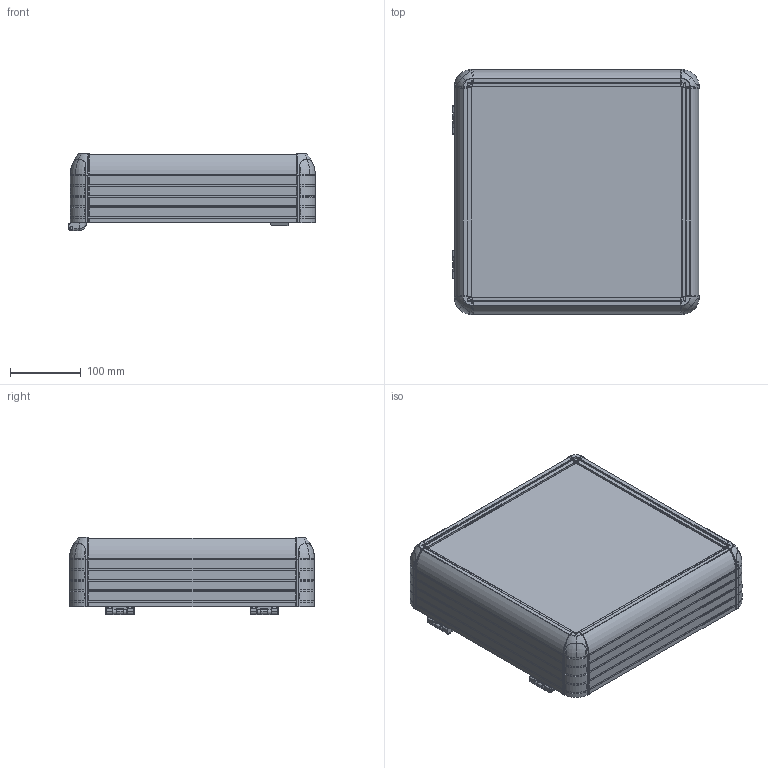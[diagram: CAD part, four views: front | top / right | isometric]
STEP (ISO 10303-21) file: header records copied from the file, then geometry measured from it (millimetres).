
FILE_DESCRIPTION (( 'STEP AP214' ), '1' );
FILE_NAME ('9000-0004.STEP', '2022-08-31T14:22:33', ( '' ), ( '' ), 'SwSTEP 2.0', 'SolidWorks 2022', '' );
FILE_SCHEMA (( 'AUTOMOTIVE_DESIGN' ));
Length unit declared in the file: millimetre
Products named in the file (5): ECO9000-0000; HPECO-090-001-295_295; 300X300; ARKA_KAPAK_300X300; 9000-0004
Assembly tree (10 placements, depth 2):
  9000-0004
    300X300
    ARKA_KAPAK_300X300
    ECO9000-0000  x4
    HPECO-090-001-295_295  x4
Bounding box: 349.03 x 347 x 109.16 mm (x, y, z)
Volume: 2335358.4 mm3; surface area: 854998 mm2
Topology: 18 solids, 68 shells, 5717 faces, 15224 edges, 9386 vertices
Faces by surface type: plane 2341, cylinder 1500, bspline 996, cone 566, torus 268, sphere 46
Entity records: 144085 total; most frequent: CARTESIAN_POINT 34489, ORIENTED_EDGE 17104, DIRECTION 15084, EDGE_CURVE 8552, AXIS2_PLACEMENT_3D 5581, VERTEX_POINT 5294, VECTOR 3922, LINE 3922
